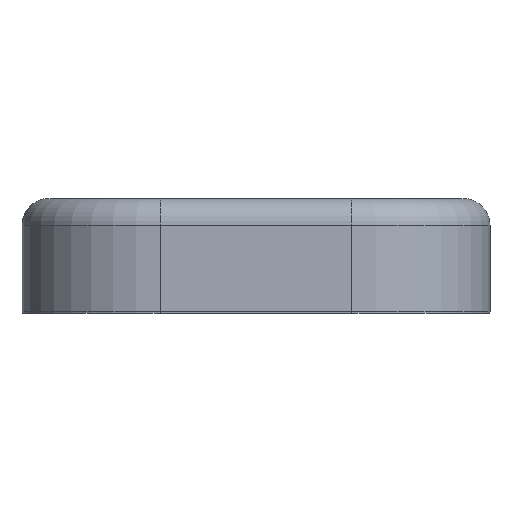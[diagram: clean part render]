
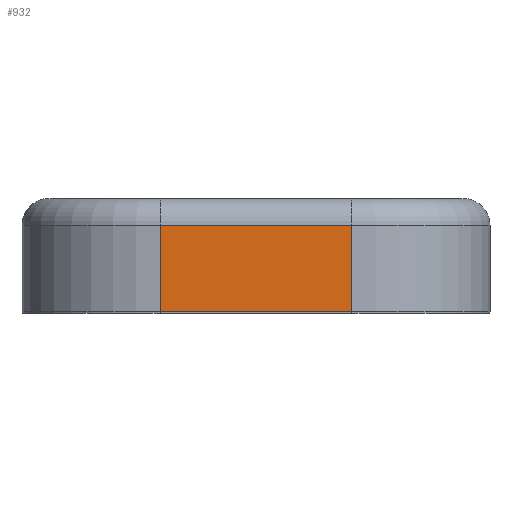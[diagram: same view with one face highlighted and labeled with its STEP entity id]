
A CAD part, front view. The second image highlights one B-rep face of the part: STEP entity #932.
In plain terms, the highlighted planar face has unit normal (0, -1, 0).
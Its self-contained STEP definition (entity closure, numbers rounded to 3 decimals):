
#44 = CYLINDRICAL_SURFACE('',#45,26.);
#45 = AXIS2_PLACEMENT_3D('',#46,#47,#48);
#46 = CARTESIAN_POINT('',(-18.,-42.,-13.6));
#47 = DIRECTION('',(0.,0.,1.));
#48 = DIRECTION('',(-1.,-0.,0.));
#207 = VERTEX_POINT('',#208);
#208 = CARTESIAN_POINT('',(-18.,-68.,-8.6));
#235 = EDGE_CURVE('',#207,#236,#238,.T.);
#236 = VERTEX_POINT('',#237);
#237 = CARTESIAN_POINT('',(-18.,-68.,7.6));
#238 = SURFACE_CURVE('',#239,(#243,#250),.PCURVE_S1.);
#239 = LINE('',#240,#241);
#240 = CARTESIAN_POINT('',(-18.,-68.,-13.6));
#241 = VECTOR('',#242,1.);
#242 = DIRECTION('',(0.,0.,1.));
#243 = PCURVE('',#44,#244);
#244 = DEFINITIONAL_REPRESENTATION('',(#245),#249);
#245 = LINE('',#246,#247);
#246 = CARTESIAN_POINT('',(1.571,0.));
#247 = VECTOR('',#248,1.);
#248 = DIRECTION('',(0.,1.));
#249 = ( GEOMETRIC_REPRESENTATION_CONTEXT(2) 
PARAMETRIC_REPRESENTATION_CONTEXT() REPRESENTATION_CONTEXT('2D SPACE',''
  ) );
#250 = PCURVE('',#251,#256);
#251 = PLANE('',#252);
#252 = AXIS2_PLACEMENT_3D('',#253,#254,#255);
#253 = CARTESIAN_POINT('',(-44.,-68.,-13.6));
#254 = DIRECTION('',(0.,1.,0.));
#255 = DIRECTION('',(0.,0.,1.));
#256 = DEFINITIONAL_REPRESENTATION('',(#257),#261);
#257 = LINE('',#258,#259);
#258 = CARTESIAN_POINT('',(0.,26.));
#259 = VECTOR('',#260,1.);
#260 = DIRECTION('',(1.,0.));
#261 = ( GEOMETRIC_REPRESENTATION_CONTEXT(2) 
PARAMETRIC_REPRESENTATION_CONTEXT() REPRESENTATION_CONTEXT('2D SPACE',''
  ) );
#833 = CYLINDRICAL_SURFACE('',#834,5.);
#834 = AXIS2_PLACEMENT_3D('',#835,#836,#837);
#835 = CARTESIAN_POINT('',(18.,-63.,-8.6));
#836 = DIRECTION('',(-1.,-0.,-0.));
#837 = DIRECTION('',(0.,-1.,0.));
#893 = CYLINDRICAL_SURFACE('',#894,5.);
#894 = AXIS2_PLACEMENT_3D('',#895,#896,#897);
#895 = CARTESIAN_POINT('',(18.,-63.,7.6));
#896 = DIRECTION('',(-1.,-0.,-0.));
#897 = DIRECTION('',(0.,-1.,0.));
#932 = ADVANCED_FACE('',(#933),#251,.F.);
#933 = FACE_BOUND('',#934,.F.);
#934 = EDGE_LOOP('',(#935,#936,#959,#987));
#935 = ORIENTED_EDGE('',*,*,#235,.T.);
#936 = ORIENTED_EDGE('',*,*,#937,.F.);
#937 = EDGE_CURVE('',#938,#236,#940,.T.);
#938 = VERTEX_POINT('',#939);
#939 = CARTESIAN_POINT('',(18.,-68.,7.6));
#940 = SURFACE_CURVE('',#941,(#945,#952),.PCURVE_S1.);
#941 = LINE('',#942,#943);
#942 = CARTESIAN_POINT('',(18.,-68.,7.6));
#943 = VECTOR('',#944,1.);
#944 = DIRECTION('',(-1.,-0.,-0.));
#945 = PCURVE('',#251,#946);
#946 = DEFINITIONAL_REPRESENTATION('',(#947),#951);
#947 = LINE('',#948,#949);
#948 = CARTESIAN_POINT('',(21.2,62.));
#949 = VECTOR('',#950,1.);
#950 = DIRECTION('',(0.,-1.));
#951 = ( GEOMETRIC_REPRESENTATION_CONTEXT(2) 
PARAMETRIC_REPRESENTATION_CONTEXT() REPRESENTATION_CONTEXT('2D SPACE',''
  ) );
#952 = PCURVE('',#893,#953);
#953 = DEFINITIONAL_REPRESENTATION('',(#954),#958);
#954 = LINE('',#955,#956);
#955 = CARTESIAN_POINT('',(0.,0.));
#956 = VECTOR('',#957,1.);
#957 = DIRECTION('',(0.,1.));
#958 = ( GEOMETRIC_REPRESENTATION_CONTEXT(2) 
PARAMETRIC_REPRESENTATION_CONTEXT() REPRESENTATION_CONTEXT('2D SPACE',''
  ) );
#959 = ORIENTED_EDGE('',*,*,#960,.F.);
#960 = EDGE_CURVE('',#961,#938,#963,.T.);
#961 = VERTEX_POINT('',#962);
#962 = CARTESIAN_POINT('',(18.,-68.,-8.6));
#963 = SURFACE_CURVE('',#964,(#968,#975),.PCURVE_S1.);
#964 = LINE('',#965,#966);
#965 = CARTESIAN_POINT('',(18.,-68.,-13.6));
#966 = VECTOR('',#967,1.);
#967 = DIRECTION('',(0.,0.,1.));
#968 = PCURVE('',#251,#969);
#969 = DEFINITIONAL_REPRESENTATION('',(#970),#974);
#970 = LINE('',#971,#972);
#971 = CARTESIAN_POINT('',(0.,62.));
#972 = VECTOR('',#973,1.);
#973 = DIRECTION('',(1.,0.));
#974 = ( GEOMETRIC_REPRESENTATION_CONTEXT(2) 
PARAMETRIC_REPRESENTATION_CONTEXT() REPRESENTATION_CONTEXT('2D SPACE',''
  ) );
#975 = PCURVE('',#976,#981);
#976 = CYLINDRICAL_SURFACE('',#977,26.);
#977 = AXIS2_PLACEMENT_3D('',#978,#979,#980);
#978 = CARTESIAN_POINT('',(18.,-42.,-13.6));
#979 = DIRECTION('',(0.,0.,1.));
#980 = DIRECTION('',(1.,0.,-0.));
#981 = DEFINITIONAL_REPRESENTATION('',(#982),#986);
#982 = LINE('',#983,#984);
#983 = CARTESIAN_POINT('',(-1.571,0.));
#984 = VECTOR('',#985,1.);
#985 = DIRECTION('',(-0.,1.));
#986 = ( GEOMETRIC_REPRESENTATION_CONTEXT(2) 
PARAMETRIC_REPRESENTATION_CONTEXT() REPRESENTATION_CONTEXT('2D SPACE',''
  ) );
#987 = ORIENTED_EDGE('',*,*,#988,.T.);
#988 = EDGE_CURVE('',#961,#207,#989,.T.);
#989 = SURFACE_CURVE('',#990,(#994,#1001),.PCURVE_S1.);
#990 = LINE('',#991,#992);
#991 = CARTESIAN_POINT('',(18.,-68.,-8.6));
#992 = VECTOR('',#993,1.);
#993 = DIRECTION('',(-1.,-0.,-0.));
#994 = PCURVE('',#251,#995);
#995 = DEFINITIONAL_REPRESENTATION('',(#996),#1000);
#996 = LINE('',#997,#998);
#997 = CARTESIAN_POINT('',(5.,62.));
#998 = VECTOR('',#999,1.);
#999 = DIRECTION('',(0.,-1.));
#1000 = ( GEOMETRIC_REPRESENTATION_CONTEXT(2) 
PARAMETRIC_REPRESENTATION_CONTEXT() REPRESENTATION_CONTEXT('2D SPACE',''
  ) );
#1001 = PCURVE('',#833,#1002);
#1002 = DEFINITIONAL_REPRESENTATION('',(#1003),#1007);
#1003 = LINE('',#1004,#1005);
#1004 = CARTESIAN_POINT('',(-0.,0.));
#1005 = VECTOR('',#1006,1.);
#1006 = DIRECTION('',(-0.,1.));
#1007 = ( GEOMETRIC_REPRESENTATION_CONTEXT(2) 
PARAMETRIC_REPRESENTATION_CONTEXT() REPRESENTATION_CONTEXT('2D SPACE',''
  ) );
